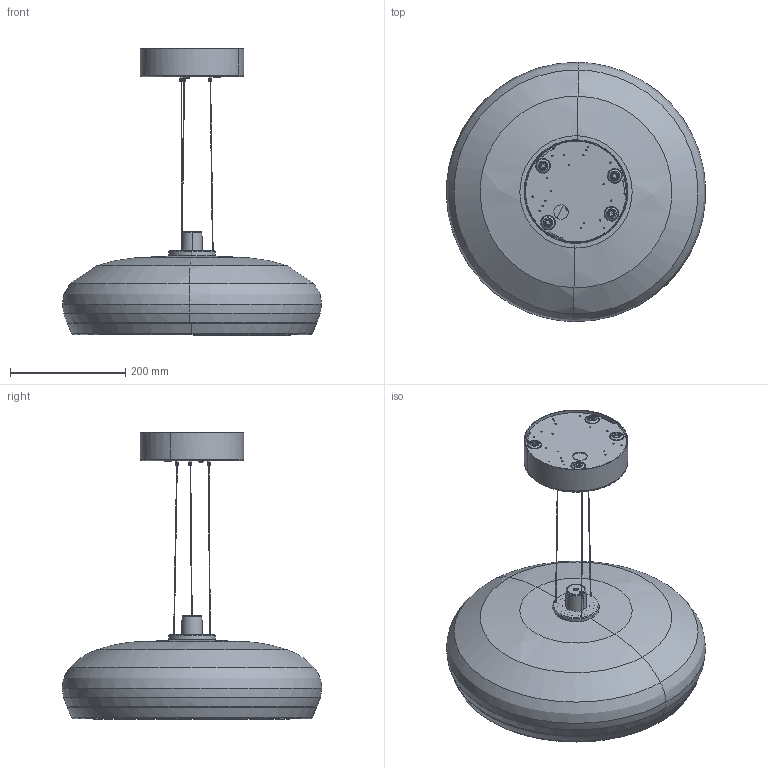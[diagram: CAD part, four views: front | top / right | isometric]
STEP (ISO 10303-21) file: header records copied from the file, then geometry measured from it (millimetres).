
FILE_DESCRIPTION(/* description */ (''),/* implementation_level */ '2;1');
FILE_NAME(/* name */ '00456MP0LD10CEPB - AURELIA S 45 SS EMEA',/* time_stamp */ '2023-09-27T18:31:59+02:00',/* author */ (''),/* organization */ (''),/* preprocessor_version */ 'ST-DEVELOPER v16.5',/* originating_system */ 'Rhino 7.27',/* authorisation */ '');
FILE_SCHEMA (('CONFIG_CONTROL_DESIGN'));
Length unit declared in the file: millimetre
Products named in the file (2): Document; Blocco 10
Assembly tree (1 placements, depth 2):
  Document
    Blocco 10
Bounding box: 449.62 x 449.98 x 497.27 mm (x, y, z)
Volume: 676103.3 mm3; surface area: 1657065.3 mm2
Topology: 20 solids, 23 shells, 1030 faces, 2498 edges, 1607 vertices
Faces by surface type: plane 489, cylinder 275, bspline 266
Entity records: 34354 total; most frequent: CARTESIAN_POINT 17953, ORIENTED_EDGE 4986, EDGE_CURVE 2494, VERTEX_POINT 1606, EDGE_LOOP 1270, B_SPLINE_CURVE_WITH_KNOTS 1214, ADVANCED_FACE 1028, FACE_OUTER_BOUND 1028
